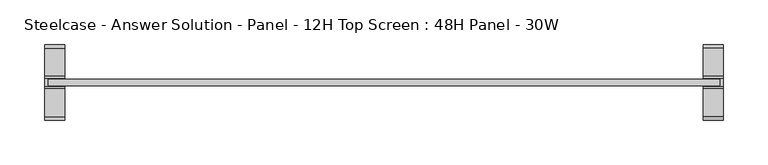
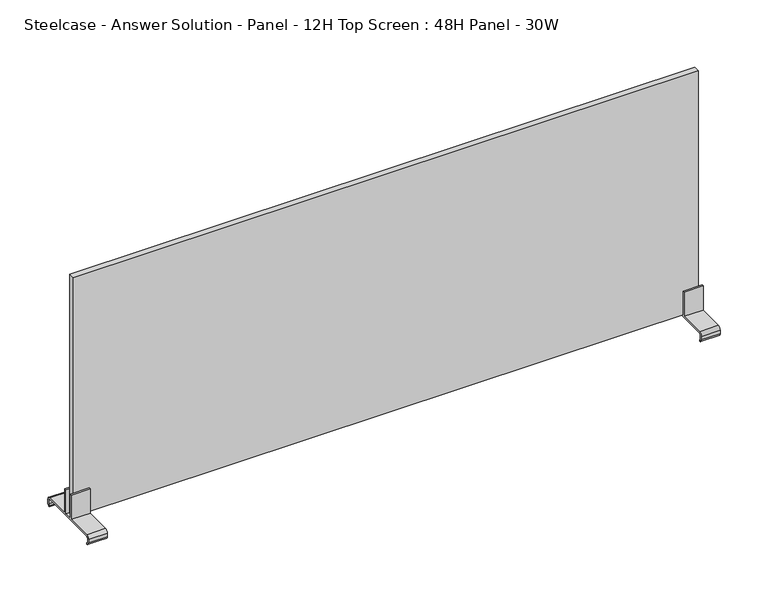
"""IFC4 building model written with IfcOpenShell, lengths in millimetres: furniture geometry, Steelcase - Answer Solution - Panel - 12H Top Screen : 48H Panel - 30W."""

from ifc_helpers import new_model, si_unit, point, frame, frame_2d, origin, place, context, project, spatial, polyline, circle_curve, trimmed, segment, composite_curve, outline, extrude, source, transform, mapped, element, save


def steelcase_answer_solution_panel_12h_top_screen_48h_panel_30w_03571fde(model_context):
    return source(origin(), model_context, "Body", "SweptSolid", [
        extrude(outline(polyline([(376.936, -3.683001), (-376.936, -3.683001), (-376.936, 3.683001), (376.936, 3.683001), (376.936, -3.683001)])), frame((0.0, 0.0, 1227.5819981), z_axis=(0.0, 0.0, 1.0), x_axis=(1.0, 0.0, 0.0)), (0.0, 0.0, 1.0), 304.8),
        extrude(outline(composite_curve([segment(trimmed(circle_curve(frame_2d((38.5445, 1223.645)), 1.905), [point((40.4495, 1223.645))], [point((38.5445, 1225.55))], True, "CARTESIAN"), True, "CONTINUOUS"), segment(polyline([(38.5445, 1225.55), (-38.5445, 1225.55)]), True, "CONTINUOUS"), segment(trimmed(circle_curve(frame_2d((-38.5445, 1223.645)), 1.905), [point((-38.5445, 1225.55))], [point((-40.4495, 1223.645))], True, "CARTESIAN"), True, "CONTINUOUS"), segment(polyline([(-40.4495, 1223.645), (-40.4495, 1219.0341187)]), True, "CONTINUOUS"), segment(trimmed(circle_curve(frame_2d((-38.5445, 1219.0341187)), 1.905), [point((-40.4495, 1219.0341187))], [point((-38.6743328, 1217.1335481))], True, "CARTESIAN"), True, "CONTINUOUS"), segment(polyline([(-38.6743328, 1217.1335481), (-39.2392449, 1215.5535566)]), True, "CONTINUOUS"), segment(trimmed(circle_curve(frame_2d((-38.5459934, 1219.4284569)), 3.9364261), [point((-39.2392449, 1215.5535566))], [point((-42.4824195, 1219.4284569))], False, "CARTESIAN"), True, "CONTINUOUS"), segment(polyline([(-42.4824195, 1219.4284569), (-42.4824195, 1223.6452288)]), True, "CONTINUOUS"), segment(trimmed(circle_curve(frame_2d((-38.5459934, 1223.6452288)), 3.9364261), [point((-42.4824195, 1223.6452288))], [point((-38.5459934, 1227.5816549))], False, "CARTESIAN"), True, "CONTINUOUS"), segment(polyline([(-38.5459934, 1227.5816549), (-6.7310004, 1227.5816549), (-6.7310004, 1258.5699952), (-4.699, 1258.5699952), (-4.699, 1227.5819952), (4.699, 1227.5819952), (4.699, 1258.5700048), (6.7310004, 1258.5700048), (6.7310004, 1227.5816549), (38.5459934, 1227.5816549)]), True, "CONTINUOUS"), segment(trimmed(circle_curve(frame_2d((38.5459934, 1223.6452288)), 3.9364261), [point((38.5459934, 1227.5816549))], [point((42.4824195, 1223.6452288))], False, "CARTESIAN"), True, "CONTINUOUS"), segment(polyline([(42.4824195, 1223.6452288), (42.4824195, 1219.4284569)]), True, "CONTINUOUS"), segment(trimmed(circle_curve(frame_2d((38.5459934, 1219.4284569)), 3.9364261), [point((42.4824195, 1219.4284569))], [point((39.6631716, 1215.6538889))], False, "CARTESIAN"), True, "CONTINUOUS"), segment(polyline([(39.6631716, 1215.6538889), (39.1055128, 1217.2135996)]), True, "CONTINUOUS"), segment(trimmed(circle_curve(frame_2d((38.5445, 1219.0341187)), 1.905), [point((39.1055128, 1217.2135996))], [point((40.4495, 1219.0341187))], True, "CARTESIAN"), True, "CONTINUOUS"), segment(polyline([(40.4495, 1219.0341187), (40.4495, 1223.645)]), True, "CONTINUOUS")], self_intersect=False)), frame((358.394, 0.0, 0.0), z_axis=(1.0, 0.0, 0.0), x_axis=(0.0, 1.0, 0.0)), (0.0, 0.0, 1.0), 22.606),
        extrude(outline(composite_curve([segment(trimmed(circle_curve(frame_2d((38.5445, 1223.645)), 1.905), [point((40.4495, 1223.645))], [point((38.5445, 1225.55))], True, "CARTESIAN"), True, "CONTINUOUS"), segment(polyline([(38.5445, 1225.55), (-38.5445, 1225.55)]), True, "CONTINUOUS"), segment(trimmed(circle_curve(frame_2d((-38.5445, 1223.645)), 1.905), [point((-38.5445, 1225.55))], [point((-40.4495, 1223.645))], True, "CARTESIAN"), True, "CONTINUOUS"), segment(polyline([(-40.4495, 1223.645), (-40.4495, 1219.0341187)]), True, "CONTINUOUS"), segment(trimmed(circle_curve(frame_2d((-38.5445, 1219.0341187)), 1.905), [point((-40.4495, 1219.0341187))], [point((-38.6743328, 1217.1335481))], True, "CARTESIAN"), True, "CONTINUOUS"), segment(polyline([(-38.6743328, 1217.1335481), (-39.2392449, 1215.5535566)]), True, "CONTINUOUS"), segment(trimmed(circle_curve(frame_2d((-38.5459934, 1219.4284569)), 3.9364261), [point((-39.2392449, 1215.5535566))], [point((-42.4824195, 1219.4284569))], False, "CARTESIAN"), True, "CONTINUOUS"), segment(polyline([(-42.4824195, 1219.4284569), (-42.4824195, 1223.6452288)]), True, "CONTINUOUS"), segment(trimmed(circle_curve(frame_2d((-38.5459934, 1223.6452288)), 3.9364261), [point((-42.4824195, 1223.6452288))], [point((-38.5459934, 1227.5816549))], False, "CARTESIAN"), True, "CONTINUOUS"), segment(polyline([(-38.5459934, 1227.5816549), (-6.7310004, 1227.5816549), (-6.7310004, 1258.5699952), (-4.699, 1258.5699952), (-4.699, 1227.5819952), (4.699, 1227.5819952), (4.699, 1258.5700048), (6.7310004, 1258.5700048), (6.7310004, 1227.5816549), (38.5459934, 1227.5816549)]), True, "CONTINUOUS"), segment(trimmed(circle_curve(frame_2d((38.5459934, 1223.6452288)), 3.9364261), [point((38.5459934, 1227.5816549))], [point((42.4824195, 1223.6452288))], False, "CARTESIAN"), True, "CONTINUOUS"), segment(polyline([(42.4824195, 1223.6452288), (42.4824195, 1219.4284569)]), True, "CONTINUOUS"), segment(trimmed(circle_curve(frame_2d((38.5459934, 1219.4284569)), 3.9364261), [point((42.4824195, 1219.4284569))], [point((39.6631716, 1215.6538889))], False, "CARTESIAN"), True, "CONTINUOUS"), segment(polyline([(39.6631716, 1215.6538889), (39.1055128, 1217.2135996)]), True, "CONTINUOUS"), segment(trimmed(circle_curve(frame_2d((38.5445, 1219.0341187)), 1.905), [point((39.1055128, 1217.2135996))], [point((40.4495, 1219.0341187))], True, "CARTESIAN"), True, "CONTINUOUS"), segment(polyline([(40.4495, 1219.0341187), (40.4495, 1223.645)]), True, "CONTINUOUS")], self_intersect=False)), frame((-381.0, 0.0, 0.0), z_axis=(1.0, 0.0, 0.0), x_axis=(0.0, 1.0, 0.0)), (0.0, 0.0, 1.0), 22.606),
    ])


if __name__ == "__main__":
    model = new_model("IFC4")
    model_context = context("Model", 3, world=origin())
    ifc_project = project(units=[si_unit("LENGTHUNIT", "METRE", prefix="MILLI")], contexts=[model_context])
    site = spatial("IfcSite", under=ifc_project)
    building = spatial("IfcBuilding", under=site)
    placement = place(None, origin())
    steelcase_answer_solution_panel_12h_top_screen_48h_panel_30w_shape = steelcase_answer_solution_panel_12h_top_screen_48h_panel_30w_03571fde(model_context)
    element("IfcFurniture", 1, ObjectType="Steelcase - Answer Solution - Panel - 12H Top Screen : 48H Panel - 30W", at=placement, inside=building, context=model_context, shape_type="MappedRepresentation", body=[
        mapped(steelcase_answer_solution_panel_12h_top_screen_48h_panel_30w_shape, transform((0.0, 0.0, 0.0), x_axis=(1.0, 0.0, 0.0), y_axis=(0.0, 1.0, 0.0), z_axis=(0.0, 0.0, 1.0))),
    ])
    save(model, "model.ifc")
